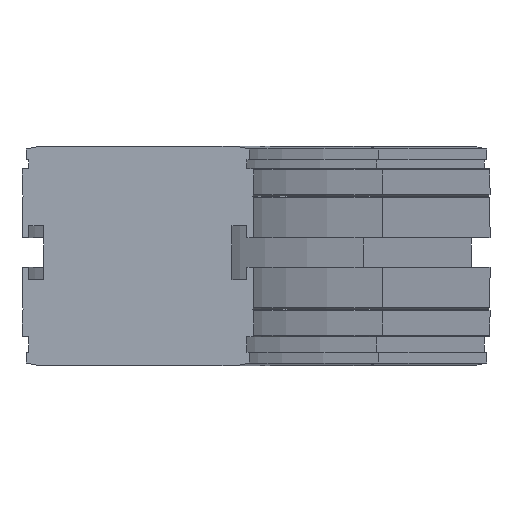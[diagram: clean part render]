
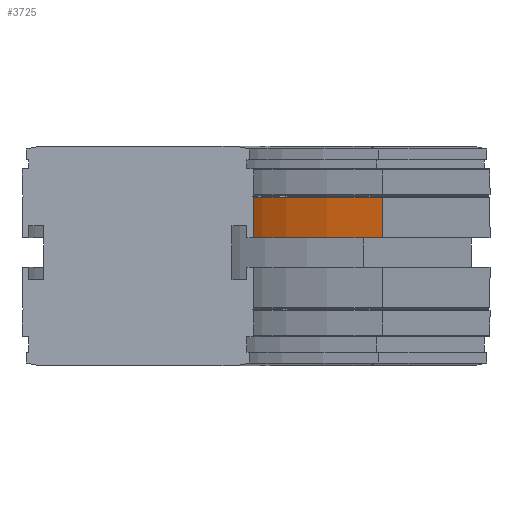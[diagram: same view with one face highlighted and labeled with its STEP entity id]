
A CAD part, left-side view. The second image highlights one B-rep face of the part: STEP entity #3725.
In plain terms, the highlighted cylindrical face has radius 357 mm (diameter 714 mm), a partial arc.
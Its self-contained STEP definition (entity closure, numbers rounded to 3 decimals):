
#2445=CARTESIAN_POINT('',(258.5,-90.829,-19.));
#2446=VERTEX_POINT('',#2445);
#2453=CARTESIAN_POINT('',(258.5,-90.829,-34.));
#2454=VERTEX_POINT('',#2453);
#2455=CARTESIAN_POINT('',(258.5,-90.829,-34.));
#2456=DIRECTION('',(0.0,0.0,1.0));
#2457=VECTOR('',#2456,15.);
#2458=LINE('',#2455,#2457);
#2459=EDGE_CURVE('',#2454,#2446,#2458,.T.);
#3693=CARTESIAN_POINT('',(80.0,-400.0,-26.5));
#3694=DIRECTION('',(0.0,0.0,-1.0));
#3695=DIRECTION('',(-0.5,-0.866,0.0));
#3696=AXIS2_PLACEMENT_3D('',#3693,#3694,#3695);
#3697=CYLINDRICAL_SURFACE('',#3696,357.0);
#3698=ORIENTED_EDGE('',*,*,#2459,.T.);
#3699=CARTESIAN_POINT('',(80.0,-43.0,-19.));
#3700=VERTEX_POINT('',#3699);
#3701=CARTESIAN_POINT('',(80.0,-400.0,-19.));
#3702=DIRECTION('',(0.0,0.0,-1.0));
#3703=DIRECTION('',(-0.5,-0.866,0.0));
#3704=AXIS2_PLACEMENT_3D('',#3701,#3702,#3703);
#3705=CIRCLE('',#3704,357.0);
#3706=EDGE_CURVE('',#3700,#2446,#3705,.T.);
#3707=ORIENTED_EDGE('',*,*,#3706,.F.);
#3708=CARTESIAN_POINT('',(80.0,-43.0,-34.));
#3709=VERTEX_POINT('',#3708);
#3710=CARTESIAN_POINT('',(80.0,-43.0,-34.));
#3711=DIRECTION('',(0.0,0.0,1.0));
#3712=VECTOR('',#3711,15.);
#3713=LINE('',#3710,#3712);
#3714=EDGE_CURVE('',#3709,#3700,#3713,.T.);
#3715=ORIENTED_EDGE('',*,*,#3714,.F.);
#3716=CARTESIAN_POINT('',(80.0,-400.0,-34.));
#3717=DIRECTION('',(0.0,0.0,-1.0));
#3718=DIRECTION('',(-0.5,-0.866,0.0));
#3719=AXIS2_PLACEMENT_3D('',#3716,#3717,#3718);
#3720=CIRCLE('',#3719,357.0);
#3721=EDGE_CURVE('',#3709,#2454,#3720,.T.);
#3722=ORIENTED_EDGE('',*,*,#3721,.T.);
#3723=EDGE_LOOP('',(#3698,#3707,#3715,#3722));
#3724=FACE_OUTER_BOUND('',#3723,.T.);
#3725=ADVANCED_FACE('',(#3724),#3697,.F.);
